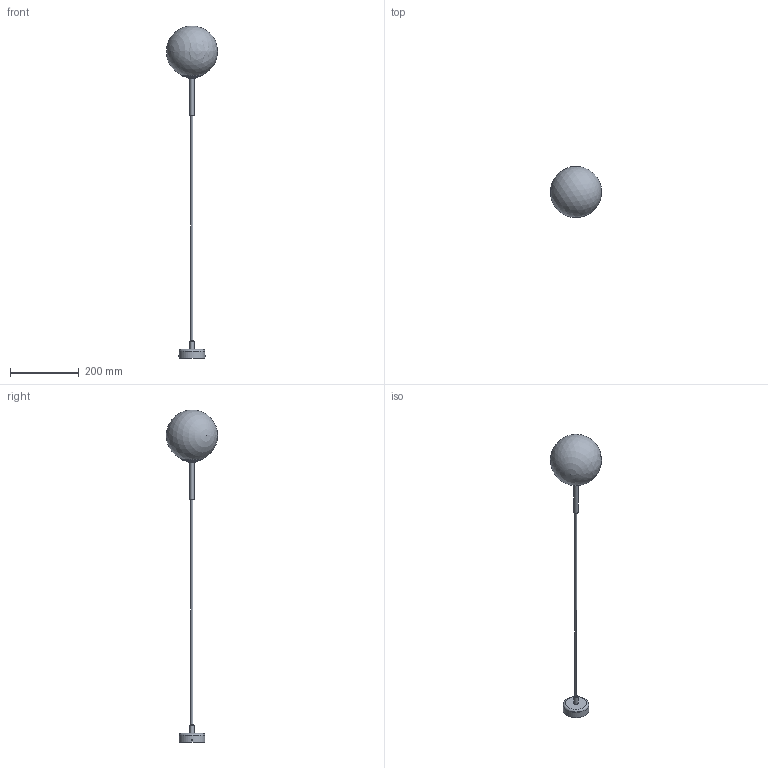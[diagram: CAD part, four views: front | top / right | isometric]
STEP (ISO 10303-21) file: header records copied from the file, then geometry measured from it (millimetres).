
FILE_DESCRIPTION(/* description */ (''),/* implementation_level */ '2;1');
FILE_NAME(/* name */ 'C:\Users\Dominika\Desktop\Modele CZARNY\BALL\LAMPA BALL.stp',/* time_stamp */ '2019-12-05T20:31:06+01:00',/* author */ ('Dominika'),/* organization */ (''),/* preprocessor_version */ 'ST-DEVELOPER v17',/* originating_system */ 'Autodesk Inventor 2019',/* authorisation */ '');
FILE_SCHEMA (('AUTOMOTIVE_DESIGN { 1 0 10303 214 3 1 1 }'));
Length unit declared in the file: millimetre
Products named in the file (10): LAMPA BALL; b56 kula; T14 mocowanie do ściany; B15 rurka II; BALL tulejka I; BALL tulejka w srodku; BALL zarowka; sruba; B56 pierscien duzy; BALL tulejka I_1
Assembly tree (10 placements, depth 2):
  LAMPA BALL
    b56 kula
    T14 mocowanie do ściany
    B15 rurka II
    BALL tulejka I
    BALL tulejka w srodku
    BALL zarowka
    sruba  x2
    B56 pierscien duzy
    BALL tulejka I_1
Bounding box: 149.43 x 149.46 x 969.45 mm (x, y, z)
Volume: 1842617.1 mm3; surface area: 132220.9 mm2
Topology: 16 solids, 16 shells, 201 faces, 484 edges, 319 vertices
Faces by surface type: plane 98, cylinder 56, bspline 19, torus 16, sphere 7, cone 5
Full cylindrical faces by diameter (mm): 0.25 x20, 0.3 x8, 0.75 x4, 1.347 x1, 2.347 x1, 2.5 x2, 4 x4, 4.396 x1, 5.396 x1, 6 x3, 8 x1, 12 x5, 12.008 x1, 12.8 x1, 19 x1, 71 x1, 75 x1
Entity records: 10326 total; most frequent: CARTESIAN_POINT 5289, DIRECTION 954, ORIENTED_EDGE 898, EDGE_CURVE 449, AXIS2_PLACEMENT_3D 408, VERTEX_POINT 307, EDGE_LOOP 250, CIRCLE 199
